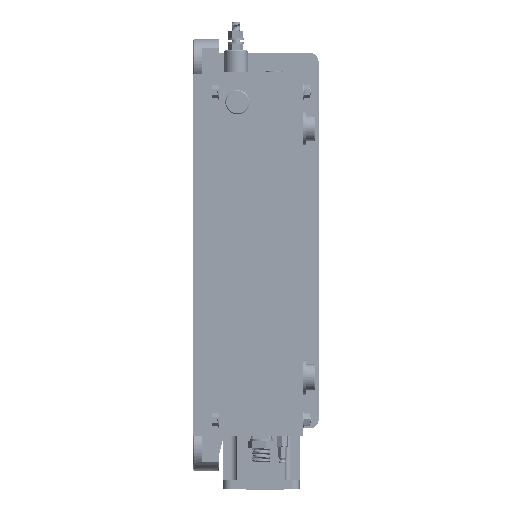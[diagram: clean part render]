
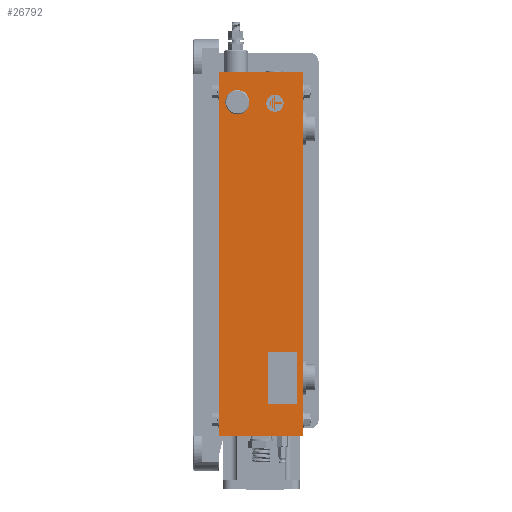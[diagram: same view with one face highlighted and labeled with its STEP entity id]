
A CAD part, left-side view. The second image highlights one B-rep face of the part: STEP entity #26792.
In plain terms, the highlighted planar face has unit normal (-1, 0, 0).
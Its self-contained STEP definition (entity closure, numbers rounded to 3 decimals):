
#24 = LINE ( 'NONE', #23543, #178332 ) ;
#4897 = EDGE_CURVE ( 'NONE', #59476, #109615, #49993, .T. ) ;
#23543 = CARTESIAN_POINT ( 'NONE',  ( -532.578, 81.561, 223.292 ) ) ;
#23761 = EDGE_CURVE ( 'NONE', #45761, #59476, #178066, .T. ) ;
#25938 = ORIENTED_EDGE ( 'NONE', *, *, #4897, .T. ) ;
#26792 = ADVANCED_FACE ( 'NONE', ( #87453 ), #201930, .F. ) ;
#39884 = CARTESIAN_POINT ( 'NONE',  ( -532.578, 81.561, -198.708 ) ) ;
#45761 = VERTEX_POINT ( 'NONE', #139601 ) ;
#46209 = CARTESIAN_POINT ( 'NONE',  ( -532.578, -254.439, -118.708 ) ) ;
#48456 = CARTESIAN_POINT ( 'NONE',  ( -532.578, -15.439, 223.292 ) ) ;
#49993 = LINE ( 'NONE', #185139, #203678 ) ;
#57747 = EDGE_CURVE ( 'NONE', #69683, #45761, #24, .T. ) ;
#59476 = VERTEX_POINT ( 'NONE', #39884 ) ;
#66397 = CARTESIAN_POINT ( 'NONE',  ( -532.578, 81.561, 221.292 ) ) ;
#69683 = VERTEX_POINT ( 'NONE', #48456 ) ;
#80630 = LINE ( 'NONE', #165851, #227559 ) ;
#87453 = FACE_OUTER_BOUND ( 'NONE', #195706, .T. ) ;
#97010 = DIRECTION ( 'NONE',  ( 0., -1., 0. ) ) ;
#98101 = ORIENTED_EDGE ( 'NONE', *, *, #23761, .T. ) ;
#109615 = VERTEX_POINT ( 'NONE', #123150 ) ;
#110139 = AXIS2_PLACEMENT_3D ( 'NONE', #46209, #112308, #199058 ) ;
#112308 = DIRECTION ( 'NONE',  ( 1., 0., 0. ) ) ;
#120523 = ORIENTED_EDGE ( 'NONE', *, *, #234230, .T. ) ;
#123150 = CARTESIAN_POINT ( 'NONE',  ( -532.578, -15.439, -198.708 ) ) ;
#139601 = CARTESIAN_POINT ( 'NONE',  ( -532.578, 81.561, 223.292 ) ) ;
#163241 = DIRECTION ( 'NONE',  ( 0., 0., -1. ) ) ;
#165851 = CARTESIAN_POINT ( 'NONE',  ( -532.578, -15.439, -198.708 ) ) ;
#174977 = DIRECTION ( 'NONE',  ( 0., 1., 0. ) ) ;
#178066 = LINE ( 'NONE', #66397, #253059 ) ;
#178332 = VECTOR ( 'NONE', #174977, 1000. ) ;
#185139 = CARTESIAN_POINT ( 'NONE',  ( -532.578, -96.439, -198.708 ) ) ;
#190811 = DIRECTION ( 'NONE',  ( 0., 0., 1. ) ) ;
#195706 = EDGE_LOOP ( 'NONE', ( #25938, #120523, #265940, #98101 ) ) ;
#199058 = DIRECTION ( 'NONE',  ( 0., -1., 0. ) ) ;
#201930 = PLANE ( 'NONE',  #110139 ) ;
#203678 = VECTOR ( 'NONE', #97010, 1000. ) ;
#227559 = VECTOR ( 'NONE', #190811, 1000. ) ;
#234230 = EDGE_CURVE ( 'NONE', #109615, #69683, #80630, .T. ) ;
#253059 = VECTOR ( 'NONE', #163241, 1000. ) ;
#265940 = ORIENTED_EDGE ( 'NONE', *, *, #57747, .T. ) ;
